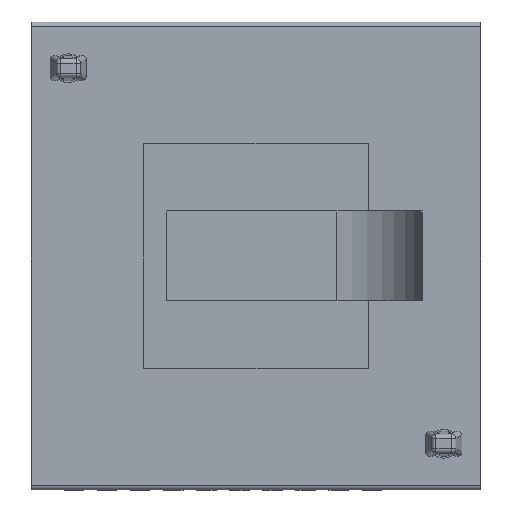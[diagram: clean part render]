
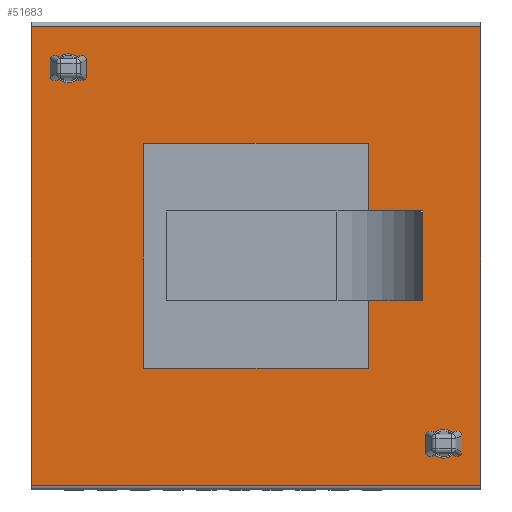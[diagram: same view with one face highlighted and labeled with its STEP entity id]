
A CAD part, front view. The second image highlights one B-rep face of the part: STEP entity #51683.
In plain terms, the highlighted planar face has unit normal (0, -1, 0).
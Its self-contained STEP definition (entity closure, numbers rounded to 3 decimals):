
#561 = ORIENTED_EDGE ( 'NONE', *, *, #77799, .F. ) ;
#1444 = DIRECTION ( 'NONE',  ( 0., 0., 1. ) ) ;
#2410 = DIRECTION ( 'NONE',  ( 0., 0., 1. ) ) ;
#3453 = CARTESIAN_POINT ( 'NONE',  ( 25., 0., 25.5 ) ) ;
#6456 = CARTESIAN_POINT ( 'NONE',  ( 20.86, 0., -20.86 ) ) ;
#7013 = ORIENTED_EDGE ( 'NONE', *, *, #74510, .F. ) ;
#7200 = DIRECTION ( 'NONE',  ( 0., -1., 0. ) ) ;
#7250 = DIRECTION ( 'NONE',  ( 0., -1., 0. ) ) ;
#8433 = CIRCLE ( 'NONE', #55942, 1.6 ) ;
#9023 = EDGE_LOOP ( 'NONE', ( #74724, #72251 ) ) ;
#9178 = DIRECTION ( 'NONE',  ( 0., -1., 0. ) ) ;
#11266 = CARTESIAN_POINT ( 'NONE',  ( 0., 0., -25.5 ) ) ;
#11953 = PLANE ( 'NONE',  #73365 ) ;
#15426 = EDGE_CURVE ( 'NONE', #17837, #33946, #25216, .T. ) ;
#15713 = CARTESIAN_POINT ( 'NONE',  ( -25., 0., -25.5 ) ) ;
#17258 = AXIS2_PLACEMENT_3D ( 'NONE', #6456, #9178, #2410 ) ;
#17837 = VERTEX_POINT ( 'NONE', #77617 ) ;
#19841 = ORIENTED_EDGE ( 'NONE', *, *, #26735, .F. ) ;
#19844 = EDGE_LOOP ( 'NONE', ( #561, #7013, #54908, #92777 ) ) ;
#20777 = EDGE_CURVE ( 'NONE', #75244, #24043, #77793, .T. ) ;
#22133 = DIRECTION ( 'NONE',  ( 0., -1., 0. ) ) ;
#22765 = EDGE_CURVE ( 'NONE', #92618, #24256, #91002, .T. ) ;
#24043 = VERTEX_POINT ( 'NONE', #69396 ) ;
#24256 = VERTEX_POINT ( 'NONE', #29896 ) ;
#25216 = LINE ( 'NONE', #11266, #88497 ) ;
#26735 = EDGE_CURVE ( 'NONE', #24256, #92618, #8433, .T. ) ;
#29896 = CARTESIAN_POINT ( 'NONE',  ( 20.86, 0., -22.46 ) ) ;
#32622 = FACE_OUTER_BOUND ( 'NONE', #19844, .T. ) ;
#32883 = VERTEX_POINT ( 'NONE', #44304 ) ;
#33946 = VERTEX_POINT ( 'NONE', #15713 ) ;
#34247 = VECTOR ( 'NONE', #61948, 1000. ) ;
#38898 = LINE ( 'NONE', #68232, #34247 ) ;
#39334 = FACE_BOUND ( 'NONE', #9023, .T. ) ;
#40048 = CIRCLE ( 'NONE', #70735, 1.6 ) ;
#40697 = DIRECTION ( 'NONE',  ( 1., 0., 0. ) ) ;
#41249 = FACE_BOUND ( 'NONE', #68339, .T. ) ;
#41730 = LINE ( 'NONE', #63327, #66289 ) ;
#41940 = ORIENTED_EDGE ( 'NONE', *, *, #22765, .F. ) ;
#42183 = DIRECTION ( 'NONE',  ( 0., 1., 0. ) ) ;
#44304 = CARTESIAN_POINT ( 'NONE',  ( -25., 0., 25.5 ) ) ;
#45126 = DIRECTION ( 'NONE',  ( 0., 0., 1. ) ) ;
#45566 = AXIS2_PLACEMENT_3D ( 'NONE', #74016, #7250, #1444 ) ;
#50341 = CARTESIAN_POINT ( 'NONE',  ( 0., 0., 0. ) ) ;
#51683 = ADVANCED_FACE ( 'NONE', ( #41249, #39334, #32622 ), #11953, .F. ) ;
#54908 = ORIENTED_EDGE ( 'NONE', *, *, #15426, .F. ) ;
#55598 = CARTESIAN_POINT ( 'NONE',  ( 0., 0., 25.5 ) ) ;
#55942 = AXIS2_PLACEMENT_3D ( 'NONE', #94224, #7200, #45126 ) ;
#58037 = DIRECTION ( 'NONE',  ( 0., 0., 1. ) ) ;
#58652 = VERTEX_POINT ( 'NONE', #3453 ) ;
#59084 = CARTESIAN_POINT ( 'NONE',  ( -20.86, 0., 20.86 ) ) ;
#61792 = VECTOR ( 'NONE', #40697, 1000. ) ;
#61948 = DIRECTION ( 'NONE',  ( 0., 0., -1. ) ) ;
#63327 = CARTESIAN_POINT ( 'NONE',  ( -25., 0., 0. ) ) ;
#66289 = VECTOR ( 'NONE', #78252, 1000. ) ;
#68232 = CARTESIAN_POINT ( 'NONE',  ( 25., 0., 0. ) ) ;
#68339 = EDGE_LOOP ( 'NONE', ( #41940, #19841 ) ) ;
#69396 = CARTESIAN_POINT ( 'NONE',  ( -20.86, 0., 19.26 ) ) ;
#70735 = AXIS2_PLACEMENT_3D ( 'NONE', #59084, #22133, #73517 ) ;
#72251 = ORIENTED_EDGE ( 'NONE', *, *, #92934, .F. ) ;
#73365 = AXIS2_PLACEMENT_3D ( 'NONE', #50341, #42183, #58037 ) ;
#73517 = DIRECTION ( 'NONE',  ( 0., 0., 1. ) ) ;
#74016 = CARTESIAN_POINT ( 'NONE',  ( -20.86, 0., 20.86 ) ) ;
#74510 = EDGE_CURVE ( 'NONE', #33946, #32883, #41730, .T. ) ;
#74724 = ORIENTED_EDGE ( 'NONE', *, *, #20777, .F. ) ;
#75244 = VERTEX_POINT ( 'NONE', #78268 ) ;
#77432 = EDGE_CURVE ( 'NONE', #58652, #17837, #38898, .T. ) ;
#77617 = CARTESIAN_POINT ( 'NONE',  ( 25., 0., -25.5 ) ) ;
#77793 = CIRCLE ( 'NONE', #45566, 1.6 ) ;
#77799 = EDGE_CURVE ( 'NONE', #32883, #58652, #94912, .T. ) ;
#78252 = DIRECTION ( 'NONE',  ( 0., 0., 1. ) ) ;
#78268 = CARTESIAN_POINT ( 'NONE',  ( -20.86, 0., 22.46 ) ) ;
#88202 = CARTESIAN_POINT ( 'NONE',  ( 20.86, 0., -19.26 ) ) ;
#88497 = VECTOR ( 'NONE', #91106, 1000. ) ;
#91002 = CIRCLE ( 'NONE', #17258, 1.6 ) ;
#91106 = DIRECTION ( 'NONE',  ( -1., 0., 0. ) ) ;
#92618 = VERTEX_POINT ( 'NONE', #88202 ) ;
#92777 = ORIENTED_EDGE ( 'NONE', *, *, #77432, .F. ) ;
#92934 = EDGE_CURVE ( 'NONE', #24043, #75244, #40048, .T. ) ;
#94224 = CARTESIAN_POINT ( 'NONE',  ( 20.86, 0., -20.86 ) ) ;
#94912 = LINE ( 'NONE', #55598, #61792 ) ;
